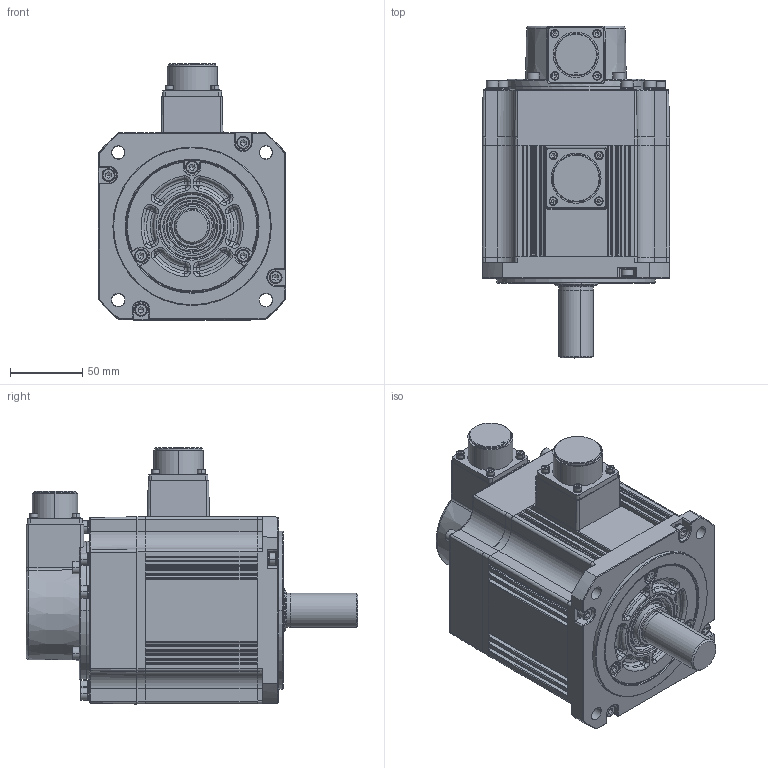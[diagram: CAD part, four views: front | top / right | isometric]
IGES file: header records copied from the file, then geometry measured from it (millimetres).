
Global section: file name: 7HNo Iges File Name specified; native system: AutoDesk Inventor R12.0; preprocessor: AutoDesk Inventor Iges Exporter R12.0; author: No Author specified; organization: No Organization specified; date: 20160715.192916; units: millimetre
Bounding box: 130.1 x 230.4 x 177.8 mm (x, y, z)
Volume: 2352423.4 mm3; surface area: 201478.3 mm2
Topology: 69 solids, 69 shells, 2412 faces, 5635 edges, 3362 vertices
Faces by surface type: plane 780, revolution 731, cylinder 389, torus 316, bspline 101, cone 86, sphere 9
